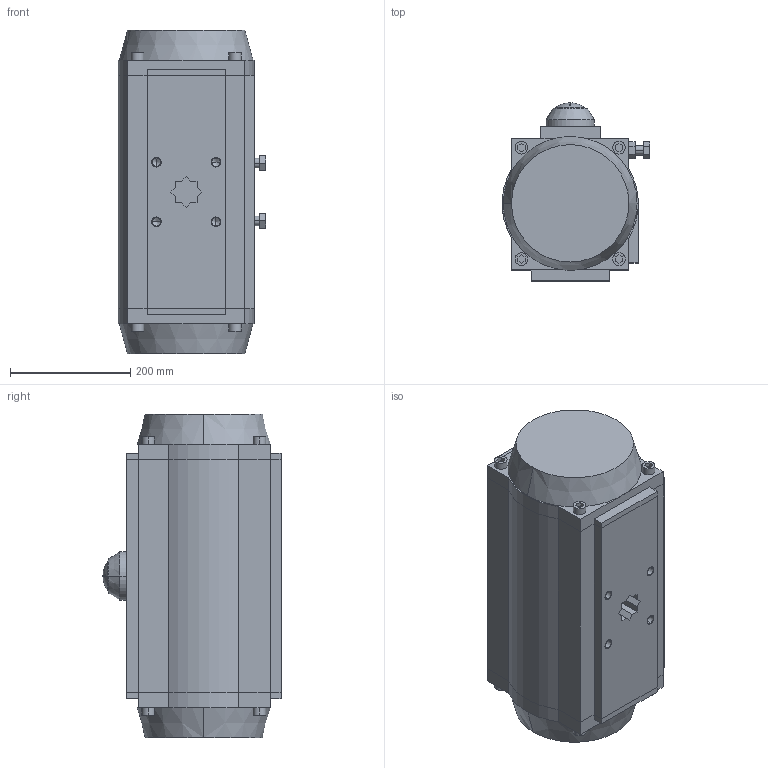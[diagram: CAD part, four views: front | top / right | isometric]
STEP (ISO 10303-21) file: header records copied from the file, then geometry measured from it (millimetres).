
FILE_DESCRIPTION((''),'2;1');
FILE_NAME('SB_PNEVMOPRIVOD_ASM','2024-02-04T',('DIMA'),(''),'PRO/ENGINEER BY PARAMETRIC TECHNOLOGY CORPORATION, 2008020','PRO/ENGINEER BY PARAMETRIC TECHNOLOGY CORPORATION, 2008020','');
FILE_SCHEMA(('CONFIG_CONTROL_DESIGN'));
Length unit declared in the file: millimetre
Products named in the file (7): KORPUS; KOLCO_60_GOST13942; KRISKA_VERX; VINT; KRISKA_LEFT; KRISKA_RIGHT; SB_PNEVMOPRIVOD_ASM
Assembly tree (6 placements, depth 2):
  SB_PNEVMOPRIVOD_ASM
    KORPUS
    KOLCO_60_GOST13942
    KRISKA_VERX
    VINT
    KRISKA_LEFT
    KRISKA_RIGHT
Bounding box: 244.67 x 295.98 x 538 mm (x, y, z)
Volume: 25331596.3 mm3; surface area: 822823.4 mm2
Topology: 6 solids, 26 shells, 408 faces, 1034 edges, 669 vertices
Faces by surface type: plane 234, cylinder 130, cone 42, sphere 2
Entity records: 12274 total; most frequent: DIRECTION 2174, CARTESIAN_POINT 2148, ORIENTED_EDGE 1916, EDGE_CURVE 1000, AXIS2_PLACEMENT_3D 757, VERTEX_POINT 669, VECTOR 660, LINE 660
